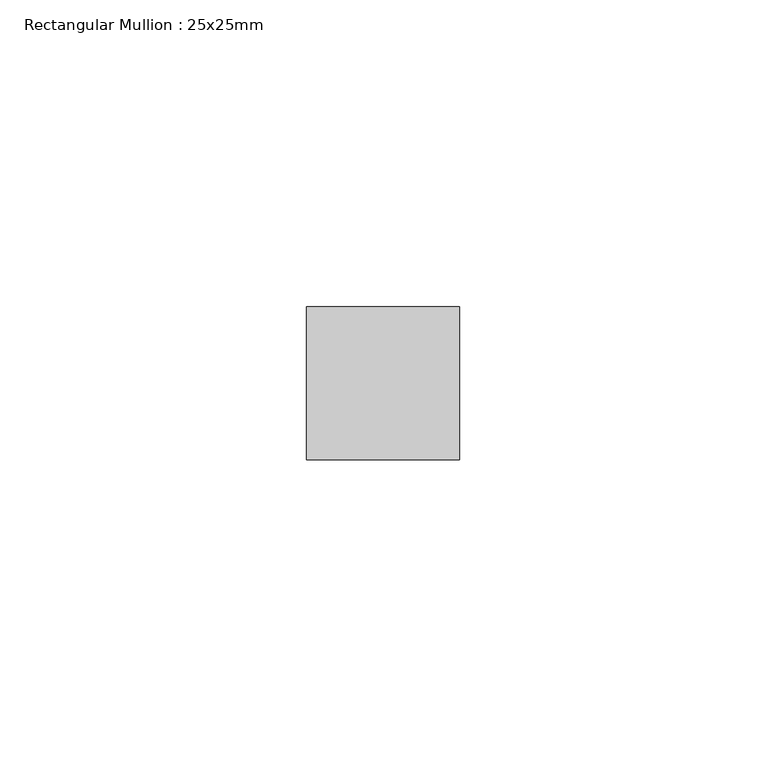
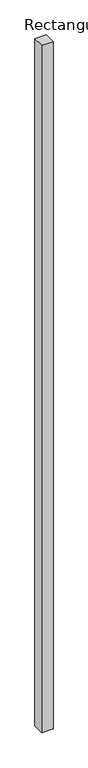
"""IFC4 building model written with IfcOpenShell, lengths in millimetres: member geometry, Rectangular Mullion : 25x25mm."""

from ifc_helpers import new_model, si_unit, frame, origin, place, context, project, spatial, polyline, outline, extrude, source, transform, mapped, element, save


def rectangular_mullion_25x25mm_b0a37639(model_context):
    return source(origin(), model_context, "Body", "SweptSolid", [
        extrude(outline(polyline([(12.5, 0.5), (12.5, -24.5), (-12.5, -24.5), (-12.5, 0.5), (12.5, 0.5)])), frame((0.0, 0.0, -1578.125), z_axis=(0.0, 0.0, 1.0), x_axis=(1.0, 0.0, 0.0)), (0.0, 0.0, 1.0), 1578.125),
    ])


if __name__ == "__main__":
    model = new_model("IFC4")
    model_context = context("Model", 3, world=origin())
    ifc_project = project(units=[si_unit("LENGTHUNIT", "METRE", prefix="MILLI")], contexts=[model_context])
    site = spatial("IfcSite", under=ifc_project)
    building = spatial("IfcBuilding", under=site)
    placement = place(None, origin())
    rectangular_mullion_25x25mm_shape = rectangular_mullion_25x25mm_b0a37639(model_context)
    element("IfcMember", 1, ObjectType="Rectangular Mullion : 25x25mm", at=placement, inside=building, context=model_context, shape_type="MappedRepresentation", body=[
        mapped(rectangular_mullion_25x25mm_shape, transform((0.0, 0.0, 0.0), x_axis=(1.0, 0.0, 0.0), y_axis=(0.0, 1.0, 0.0), z_axis=(0.0, 0.0, 1.0))),
    ])
    save(model, "model.ifc")
